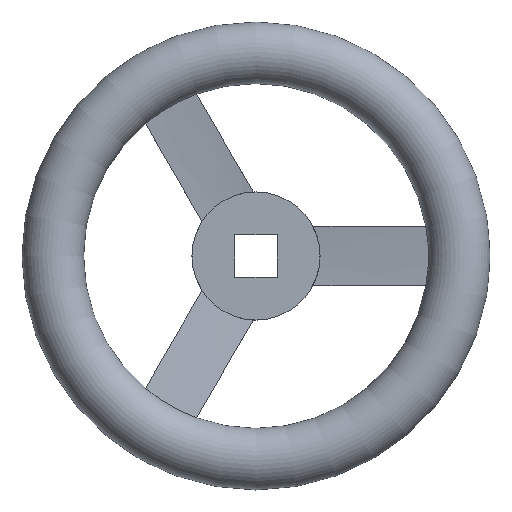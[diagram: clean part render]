
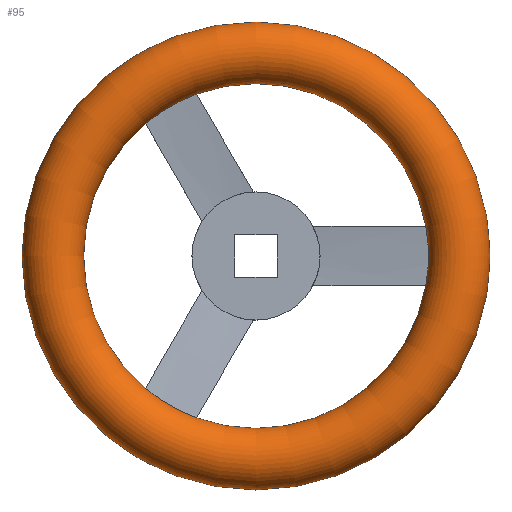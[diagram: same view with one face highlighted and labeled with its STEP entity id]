
A CAD part, top view. The second image highlights one B-rep face of the part: STEP entity #95.
In plain terms, the highlighted toroidal (fillet/blend) face has major radius 82.5 mm and minor radius 12.5 mm.
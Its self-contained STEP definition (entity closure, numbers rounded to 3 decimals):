
#95 = ADVANCED_FACE( '', ( #156, #157 ), #158, .T. );
#156 = FACE_OUTER_BOUND( '', #233, .T. );
#157 = FACE_OUTER_BOUND( '', #234, .T. );
#158 = TOROIDAL_SURFACE( '', #235, 82.5, 12.5 );
#233 = EDGE_LOOP( '', ( #421 ) );
#234 = EDGE_LOOP( '', ( #422, #423, #424, #425, #426, #427 ) );
#235 = AXIS2_PLACEMENT_3D( '', #428, #429, #430 );
#421 = ORIENTED_EDGE( '', *, *, #562, .T. );
#422 = ORIENTED_EDGE( '', *, *, #563, .F. );
#423 = ORIENTED_EDGE( '', *, *, #507, .F. );
#424 = ORIENTED_EDGE( '', *, *, #564, .F. );
#425 = ORIENTED_EDGE( '', *, *, #557, .F. );
#426 = ORIENTED_EDGE( '', *, *, #565, .F. );
#427 = ORIENTED_EDGE( '', *, *, #561, .T. );
#428 = CARTESIAN_POINT( '', ( 0., 0., 20.5 ) );
#429 = DIRECTION( '', ( 0., 0., 1. ) );
#430 = DIRECTION( '', ( 1., 0., 0. ) );
#507 = EDGE_CURVE( '', #583, #574, #585, .T. );
#557 = EDGE_CURVE( '', #605, #659, #668, .T. );
#561 = EDGE_CURVE( '', #669, #615, #674, .T. );
#562 = EDGE_CURVE( '', #675, #675, #676, .T. );
#563 = EDGE_CURVE( '', #574, #615, #677, .T. );
#564 = EDGE_CURVE( '', #659, #583, #678, .T. );
#565 = EDGE_CURVE( '', #669, #605, #679, .T. );
#574 = VERTEX_POINT( '', #698 );
#583 = VERTEX_POINT( '', #717 );
#585 = CIRCLE( '', #720, 70. );
#605 = VERTEX_POINT( '', #778 );
#615 = VERTEX_POINT( '', #805 );
#659 = VERTEX_POINT( '', #868 );
#668 = CIRCLE( '', #890, 70. );
#669 = VERTEX_POINT( '', #891 );
#674 = CIRCLE( '', #905, 70. );
#675 = VERTEX_POINT( '', #906 );
#676 = CIRCLE( '', #907, 95. );
#677 = CIRCLE( '', #908, 70. );
#678 = CIRCLE( '', #909, 70. );
#679 = CIRCLE( '', #910, 70. );
#698 = CARTESIAN_POINT( '', ( 68.964, -12., 20.5 ) );
#717 = CARTESIAN_POINT( '', ( -24.09, -65.724, 20.5 ) );
#720 = AXIS2_PLACEMENT_3D( '', #926, #927, #928 );
#778 = CARTESIAN_POINT( '', ( -44.874, 53.724, 20.5 ) );
#805 = CARTESIAN_POINT( '', ( 68.964, 12., 20.5 ) );
#868 = CARTESIAN_POINT( '', ( -44.874, -53.724, 20.5 ) );
#890 = AXIS2_PLACEMENT_3D( '', #1001, #1002, #1003 );
#891 = CARTESIAN_POINT( '', ( -24.09, 65.724, 20.5 ) );
#905 = AXIS2_PLACEMENT_3D( '', #1006, #1007, #1008 );
#906 = CARTESIAN_POINT( '', ( 95., 0., 20.5 ) );
#907 = AXIS2_PLACEMENT_3D( '', #1009, #1010, #1011 );
#908 = AXIS2_PLACEMENT_3D( '', #1012, #1013, #1014 );
#909 = AXIS2_PLACEMENT_3D( '', #1015, #1016, #1017 );
#910 = AXIS2_PLACEMENT_3D( '', #1018, #1019, #1020 );
#926 = CARTESIAN_POINT( '', ( 0., 0., 20.5 ) );
#927 = DIRECTION( '', ( 0., 0., 1. ) );
#928 = DIRECTION( '', ( 1., 0., 0. ) );
#1001 = CARTESIAN_POINT( '', ( 0., 0., 20.5 ) );
#1002 = DIRECTION( '', ( 0., 0., 1. ) );
#1003 = DIRECTION( '', ( 1., 0., 0. ) );
#1006 = CARTESIAN_POINT( '', ( 0., 0., 20.5 ) );
#1007 = DIRECTION( '', ( 0., 0., -1. ) );
#1008 = DIRECTION( '', ( -1., 0., 0. ) );
#1009 = CARTESIAN_POINT( '', ( 0., 0., 20.5 ) );
#1010 = DIRECTION( '', ( 0., 0., 1. ) );
#1011 = DIRECTION( '', ( 1., 0., 0. ) );
#1012 = CARTESIAN_POINT( '', ( 0., 0., 20.5 ) );
#1013 = DIRECTION( '', ( 0., 0., 1. ) );
#1014 = DIRECTION( '', ( 1., 0., 0. ) );
#1015 = CARTESIAN_POINT( '', ( 0., 0., 20.5 ) );
#1016 = DIRECTION( '', ( 0., 0., 1. ) );
#1017 = DIRECTION( '', ( 1., 0., 0. ) );
#1018 = CARTESIAN_POINT( '', ( 0., 0., 20.5 ) );
#1019 = DIRECTION( '', ( 0., 0., 1. ) );
#1020 = DIRECTION( '', ( 1., 0., 0. ) );
